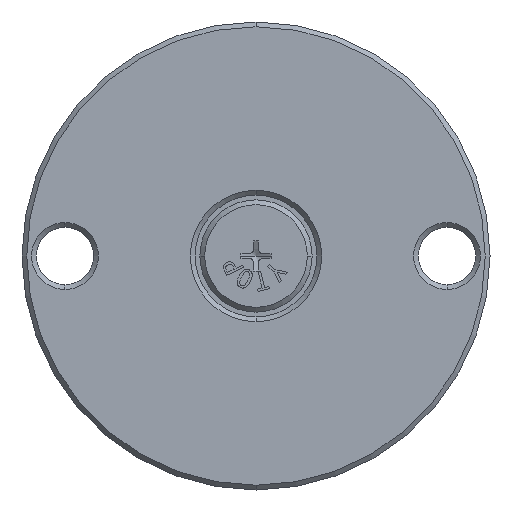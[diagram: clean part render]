
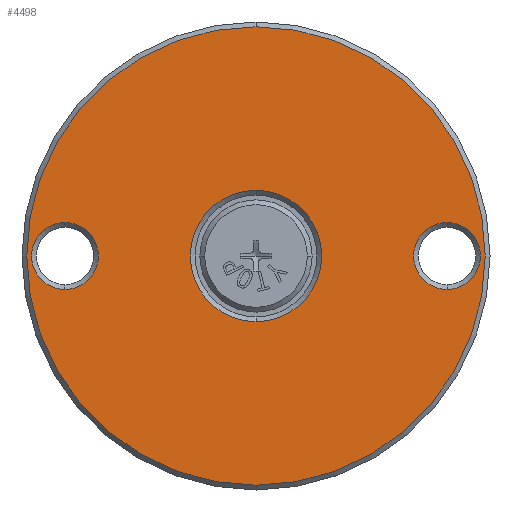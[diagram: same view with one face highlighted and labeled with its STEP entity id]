
A CAD part, front view. The second image highlights one B-rep face of the part: STEP entity #4498.
In plain terms, the highlighted planar face has unit normal (0, -1, 0).
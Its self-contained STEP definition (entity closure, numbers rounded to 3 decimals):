
#137 = EDGE_CURVE ( 'NONE', #6312, #5469, #8415, .T. ) ;
#221 = DIRECTION ( 'NONE',  ( 0., -1., 0. ) ) ;
#422 = DIRECTION ( 'NONE',  ( 0., 0., 1. ) ) ;
#505 = VERTEX_POINT ( 'NONE', #4279 ) ;
#792 = DIRECTION ( 'NONE',  ( 0., 0., 1. ) ) ;
#927 = CIRCLE ( 'NONE', #5707, 7. ) ;
#981 = EDGE_CURVE ( 'NONE', #505, #1802, #3822, .T. ) ;
#1092 = VERTEX_POINT ( 'NONE', #8555 ) ;
#1124 = EDGE_LOOP ( 'NONE', ( #3326, #7593 ) ) ;
#1146 = CARTESIAN_POINT ( 'NONE',  ( -40., 0., -7. ) ) ;
#1353 = CARTESIAN_POINT ( 'NONE',  ( 0., 0., 0. ) ) ;
#1387 = CIRCLE ( 'NONE', #7062, 13.75 ) ;
#1420 = DIRECTION ( 'NONE',  ( 0., 0., 1. ) ) ;
#1434 = DIRECTION ( 'NONE',  ( 0., 1., 0. ) ) ;
#1745 = AXIS2_PLACEMENT_3D ( 'NONE', #5379, #5458, #1420 ) ;
#1802 = VERTEX_POINT ( 'NONE', #7584 ) ;
#1892 = FACE_BOUND ( 'NONE', #5916, .T. ) ;
#2097 = DIRECTION ( 'NONE',  ( 0., 1., 0. ) ) ;
#2196 = CARTESIAN_POINT ( 'NONE',  ( 40., 0., -7. ) ) ;
#2458 = PLANE ( 'NONE',  #3241 ) ;
#2745 = DIRECTION ( 'NONE',  ( 0., 1., 0. ) ) ;
#2785 = VERTEX_POINT ( 'NONE', #2196 ) ;
#3008 = ORIENTED_EDGE ( 'NONE', *, *, #6940, .T. ) ;
#3212 = EDGE_CURVE ( 'NONE', #4547, #1092, #1387, .T. ) ;
#3241 = AXIS2_PLACEMENT_3D ( 'NONE', #5742, #8406, #422 ) ;
#3324 = CIRCLE ( 'NONE', #1745, 7. ) ;
#3326 = ORIENTED_EDGE ( 'NONE', *, *, #981, .T. ) ;
#3446 = FACE_OUTER_BOUND ( 'NONE', #1124, .T. ) ;
#3568 = AXIS2_PLACEMENT_3D ( 'NONE', #5344, #4091, #7972 ) ;
#3575 = CARTESIAN_POINT ( 'NONE',  ( -40., 0., 7. ) ) ;
#3822 = CIRCLE ( 'NONE', #7983, 48. ) ;
#3852 = ORIENTED_EDGE ( 'NONE', *, *, #8138, .T. ) ;
#3866 = ORIENTED_EDGE ( 'NONE', *, *, #137, .T. ) ;
#3999 = EDGE_LOOP ( 'NONE', ( #3852, #7597 ) ) ;
#4091 = DIRECTION ( 'NONE',  ( 0., 1., 0. ) ) ;
#4168 = CARTESIAN_POINT ( 'NONE',  ( 0., 0., 0. ) ) ;
#4279 = CARTESIAN_POINT ( 'NONE',  ( 0., 0., 48. ) ) ;
#4498 = ADVANCED_FACE ( 'NONE', ( #1892, #7111, #3446, #6588 ), #2458, .F. ) ;
#4507 = DIRECTION ( 'NONE',  ( 0., 0., 1. ) ) ;
#4547 = VERTEX_POINT ( 'NONE', #7709 ) ;
#4708 = DIRECTION ( 'NONE',  ( 0., 0., 1. ) ) ;
#5124 = CIRCLE ( 'NONE', #8562, 7. ) ;
#5218 = CARTESIAN_POINT ( 'NONE',  ( -40., 0., 0. ) ) ;
#5274 = ORIENTED_EDGE ( 'NONE', *, *, #5515, .T. ) ;
#5284 = CIRCLE ( 'NONE', #7002, 13.75 ) ;
#5344 = CARTESIAN_POINT ( 'NONE',  ( -40., 0., 0. ) ) ;
#5379 = CARTESIAN_POINT ( 'NONE',  ( 40., 0., 0. ) ) ;
#5416 = DIRECTION ( 'NONE',  ( 0., 0., 1. ) ) ;
#5458 = DIRECTION ( 'NONE',  ( 0., 1., 0. ) ) ;
#5469 = VERTEX_POINT ( 'NONE', #1146 ) ;
#5515 = EDGE_CURVE ( 'NONE', #8401, #2785, #5124, .T. ) ;
#5581 = ORIENTED_EDGE ( 'NONE', *, *, #6169, .T. ) ;
#5707 = AXIS2_PLACEMENT_3D ( 'NONE', #5218, #8482, #4507 ) ;
#5742 = CARTESIAN_POINT ( 'NONE',  ( 49., 0., 0. ) ) ;
#5805 = CARTESIAN_POINT ( 'NONE',  ( 0., 0., 0. ) ) ;
#5916 = EDGE_LOOP ( 'NONE', ( #5581, #5274 ) ) ;
#6169 = EDGE_CURVE ( 'NONE', #2785, #8401, #3324, .T. ) ;
#6312 = VERTEX_POINT ( 'NONE', #3575 ) ;
#6365 = DIRECTION ( 'NONE',  ( 0., 0., 1. ) ) ;
#6579 = CARTESIAN_POINT ( 'NONE',  ( 40., 0., 7. ) ) ;
#6588 = FACE_BOUND ( 'NONE', #3999, .T. ) ;
#6643 = CARTESIAN_POINT ( 'NONE',  ( 0., 0., 0. ) ) ;
#6791 = CARTESIAN_POINT ( 'NONE',  ( 40., 0., 0. ) ) ;
#6828 = EDGE_LOOP ( 'NONE', ( #3008, #3866 ) ) ;
#6940 = EDGE_CURVE ( 'NONE', #5469, #6312, #927, .T. ) ;
#7002 = AXIS2_PLACEMENT_3D ( 'NONE', #1353, #2745, #4708 ) ;
#7062 = AXIS2_PLACEMENT_3D ( 'NONE', #6643, #2097, #7325 ) ;
#7111 = FACE_BOUND ( 'NONE', #6828, .T. ) ;
#7179 = CIRCLE ( 'NONE', #8463, 48. ) ;
#7325 = DIRECTION ( 'NONE',  ( 0., 0., 1. ) ) ;
#7584 = CARTESIAN_POINT ( 'NONE',  ( 0., 0., -48. ) ) ;
#7593 = ORIENTED_EDGE ( 'NONE', *, *, #8574, .T. ) ;
#7597 = ORIENTED_EDGE ( 'NONE', *, *, #3212, .T. ) ;
#7709 = CARTESIAN_POINT ( 'NONE',  ( 0., 0., 13.75 ) ) ;
#7825 = DIRECTION ( 'NONE',  ( 0., -1., 0. ) ) ;
#7972 = DIRECTION ( 'NONE',  ( 0., 0., 1. ) ) ;
#7983 = AXIS2_PLACEMENT_3D ( 'NONE', #5805, #7825, #6365 ) ;
#8138 = EDGE_CURVE ( 'NONE', #1092, #4547, #5284, .T. ) ;
#8401 = VERTEX_POINT ( 'NONE', #6579 ) ;
#8406 = DIRECTION ( 'NONE',  ( 0., 1., 0. ) ) ;
#8415 = CIRCLE ( 'NONE', #3568, 7. ) ;
#8463 = AXIS2_PLACEMENT_3D ( 'NONE', #4168, #221, #792 ) ;
#8482 = DIRECTION ( 'NONE',  ( 0., 1., 0. ) ) ;
#8555 = CARTESIAN_POINT ( 'NONE',  ( 0., 0., -13.75 ) ) ;
#8562 = AXIS2_PLACEMENT_3D ( 'NONE', #6791, #1434, #5416 ) ;
#8574 = EDGE_CURVE ( 'NONE', #1802, #505, #7179, .T. ) ;
